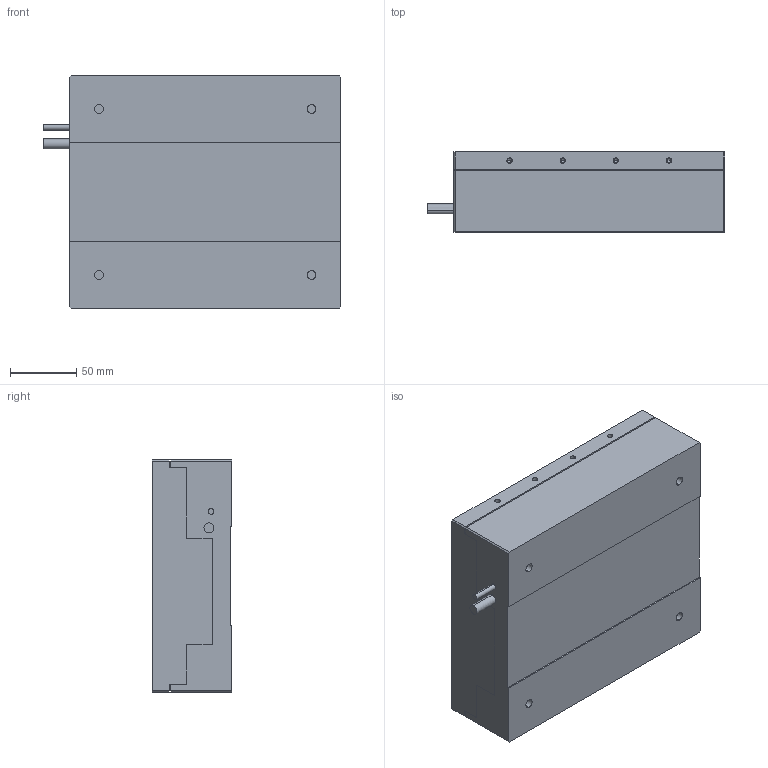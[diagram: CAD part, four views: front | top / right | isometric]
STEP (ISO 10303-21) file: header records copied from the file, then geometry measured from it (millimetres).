
FILE_DESCRIPTION (( 'STEP AP203' ), '1' );
FILE_NAME ('NPS-L-CB4-05x.STEP', '2019-09-11T05:15:43', ( '' ), ( '' ), 'SwSTEP 2.0', 'SolidWorks 2015', '' );
FILE_SCHEMA (( 'CONFIG_CONTROL_DESIGN' ));
Length unit declared in the file: millimetre
Products named in the file (3): NPS-L-CB4-05x_固定部; NPS-L-CB4-05x_移動部; NPS-L-CB4-05x
Assembly tree (2 placements, depth 2):
  NPS-L-CB4-05x
    NPS-L-CB4-05x_固定部
    NPS-L-CB4-05x_移動部
Bounding box: 224 x 60 x 175 mm (x, y, z)
Volume: 2109430.7 mm3; surface area: 222644.9 mm2
Topology: 2 solids, 2 shells, 202 faces, 460 edges, 290 vertices
Faces by surface type: cylinder 104, plane 78, cone 20
Entity records: 5913 total; most frequent: DIRECTION 1062, CARTESIAN_POINT 937, ORIENTED_EDGE 880, EDGE_CURVE 440, AXIS2_PLACEMENT_3D 415, VERTEX_POINT 290, EDGE_LOOP 258, VECTOR 232
